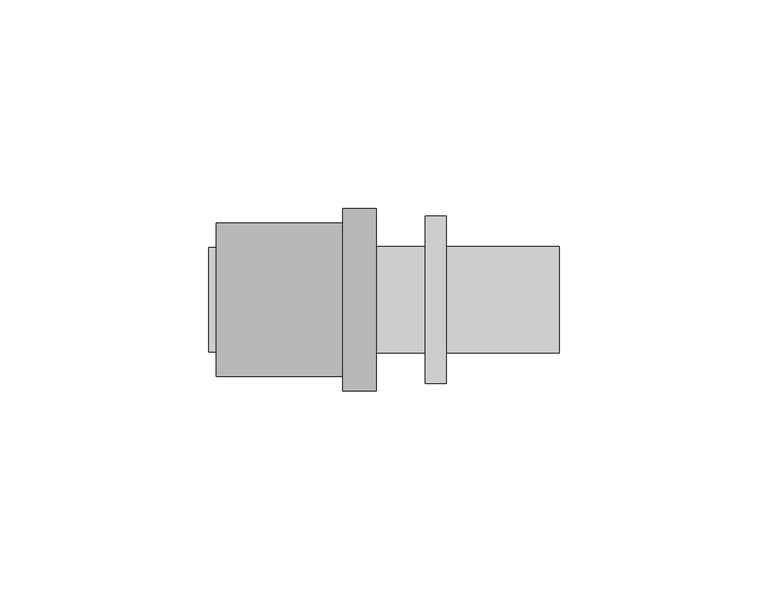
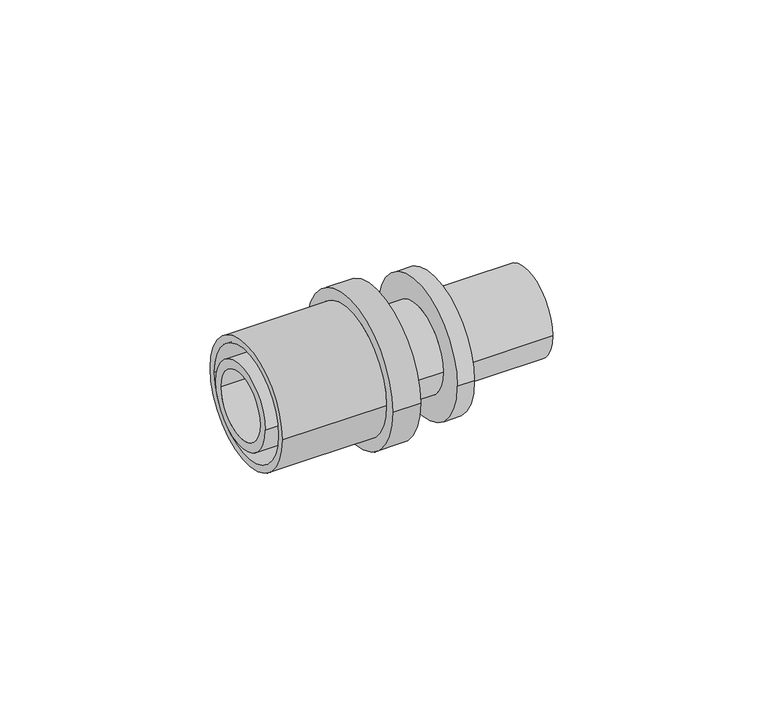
"""IFC4 building model written with IfcOpenShell, lengths in millimetres: pipe fitting geometry, FASTLOC_Adapter coupling EX+ : FSL TC EX+ AT."""

from ifc_helpers import new_model, si_unit, frame, origin, place, context, project, spatial, polyline, circle_curve, source, transform, mapped, element, save
from ifc_brep_helpers import plane_surface, cylinder_surface, revolved_surface, advanced_brep


def pipe_fitting_4892b1d5(model_context):
    return source(origin(), model_context, "Body", "AdvancedBrep", [
        advanced_brep(
        [(-5.5, -21.8, 0.0), (-5.5, 21.8, 0.0), (2.5, 21.8, 0.0), (2.5, -21.8, 0.0), (-35.8, -18.35, 0.0), (-35.8, 18.35, 0.0), (-5.5, 18.35, 0.0), (-5.5, -18.35, 0.0), (2.5, -16.2, 0.0), (2.5, 16.2, 0.0), (-35.8, 16.2, 0.0), (-35.8, -16.2, 0.0)],
        [
            (0, 1, circle_curve(frame((-5.5, 0.0, 0.0), z_axis=(1.0, 0.0, 0.0), x_axis=(0.0, 1.0, 0.0)), 21.8)),
            (1, 2),
            (2, 3, circle_curve(frame((2.5, 0.0, 0.0), z_axis=(-1.0, 0.0, 0.0), x_axis=(0.0, 1.0, 0.0)), 21.8)),
            (3, 0),
            (4, 5, circle_curve(frame((-35.8, 0.0, 0.0), z_axis=(1.0, 0.0, 0.0), x_axis=(0.0, 1.0, 0.0)), 18.35)),
            (5, 6),
            (6, 7, circle_curve(frame((-5.5, 0.0, 0.0), z_axis=(-1.0, 0.0, 0.0), x_axis=(0.0, 1.0, 0.0)), 18.35)),
            (7, 4),
            (8, 9, circle_curve(frame((2.5, 0.0, 0.0), z_axis=(1.0, 0.0, 0.0), x_axis=(0.0, 1.0, 0.0)), 16.2)),
            (9, 10),
            (10, 11, circle_curve(frame((-35.8, 0.0, 0.0), z_axis=(-1.0, 0.0, 0.0), x_axis=(0.0, 1.0, 0.0)), 16.2)),
            (11, 8),
            (1, 0, circle_curve(frame((-5.5, 0.0, 0.0), z_axis=(1.0, 0.0, 0.0), x_axis=(0.0, -1.0, 0.0)), 21.8)),
            (3, 2, circle_curve(frame((2.5, 0.0, 0.0), z_axis=(-1.0, 0.0, 0.0), x_axis=(0.0, -1.0, 0.0)), 21.8)),
            (6, 7, circle_curve(frame((-5.5, 0.0, 0.0), z_axis=(1.0, 0.0, 0.0), x_axis=(0.0, -1.0, 0.0)), 18.35)),
            (5, 4, circle_curve(frame((-35.8, 0.0, 0.0), z_axis=(1.0, 0.0, 0.0), x_axis=(0.0, -1.0, 0.0)), 18.35)),
            (10, 11, circle_curve(frame((-35.8, 0.0, 0.0), z_axis=(1.0, 0.0, 0.0), x_axis=(0.0, -1.0, 0.0)), 16.2)),
            (9, 8, circle_curve(frame((2.5, 0.0, 0.0), z_axis=(1.0, 0.0, 0.0), x_axis=(0.0, -1.0, 0.0)), 16.2)),
        ],
        [
            cylinder_surface(frame((2.5, 0.0, 0.0), z_axis=(-1.0, 0.0, 0.0), x_axis=(0.0, 1.0, 0.0)), 21.8),
            cylinder_surface(frame((2.5, 0.0, 0.0), z_axis=(-1.0, 0.0, 0.0), x_axis=(0.0, 1.0, 0.0)), 18.35),
            revolved_surface(polyline([(-35.8, 16.2, 0.0), (2.5, 16.2, 0.0)]), (2.5, 0.0, 0.0), (-1.0, 0.0, 0.0)),
            cylinder_surface(frame((2.5, 0.0, 0.0), z_axis=(-1.0, 0.0, 0.0), x_axis=(0.0, -1.0, 0.0)), 21.8),
            plane_surface(frame((-5.5, 0.0, 0.0), z_axis=(-1.0, 0.0, 0.0), x_axis=(0.0, -1.0, 0.0))),
            cylinder_surface(frame((2.5, 0.0, 0.0), z_axis=(-1.0, 0.0, 0.0), x_axis=(0.0, -1.0, 0.0)), 18.35),
            plane_surface(frame((-35.8, 0.0, 0.0), z_axis=(-1.0, 0.0, 0.0), x_axis=(0.0, -1.0, 0.0))),
            revolved_surface(polyline([(-35.8, -16.2, 0.0), (2.5, -16.2, 0.0)]), (2.5, 0.0, 0.0), (-1.0, 0.0, 0.0)),
            plane_surface(frame((2.5, 0.0, 0.0), z_axis=(1.0, 0.0, 0.0), x_axis=(0.0, -1.0, 0.0))),
        ],
        [
            (0, [[1, 2, 3, 4]]),
            (1, [[5, 6, 7, 8]]),
            (2, [[9, 10, 11, 12]]),
            (3, [[13, -4, 14, -2]]),
            (4, [[-13, -1], [15, -7]]),
            (5, [[16, -8, -15, -6]]),
            (6, [[-16, -5], [17, -11]]),
            (7, [[18, -12, -17, -10]]),
            (8, [[-14, -3], [-18, -9]]),
        ],
    ),
        advanced_brep(
        [(0.0, 9.85, 0.0), (0.0, -9.85, 0.0), (46.3, -9.85, 0.0), (46.3, 9.85, 0.0), (14.3, 12.75, 0.0), (14.3, -12.75, 0.0), (0.0, -12.75, 0.0), (0.0, 12.75, 0.0), (19.3, 20.0, 0.0), (19.3, -20.0, 0.0), (14.3, -20.0, 0.0), (14.3, 20.0, 0.0), (46.3, 12.75, 0.0), (46.3, -12.75, 0.0), (19.3, -12.75, 0.0), (19.3, 12.75, 0.0)],
        [
            (0, 1, circle_curve(frame((0.0, 0.0, 0.0), z_axis=(-1.0, 0.0, 0.0), x_axis=(0.0, -1.0, 0.0)), 9.85)),
            (1, 2),
            (2, 3, circle_curve(frame((46.3, 0.0, 0.0), z_axis=(1.0, 0.0, 0.0), x_axis=(0.0, -1.0, 0.0)), 9.85)),
            (3, 0),
            (4, 5, circle_curve(frame((14.3, 0.0, 0.0), z_axis=(-1.0, 0.0, 0.0), x_axis=(0.0, -1.0, 0.0)), 12.75)),
            (5, 6),
            (6, 7, circle_curve(frame((0.0, 0.0, 0.0), z_axis=(1.0, 0.0, 0.0), x_axis=(0.0, -1.0, 0.0)), 12.75)),
            (7, 4),
            (8, 9, circle_curve(frame((19.3, 0.0, 0.0), z_axis=(-1.0, 0.0, 0.0), x_axis=(0.0, -1.0, 0.0)), 20.0)),
            (9, 10),
            (10, 11, circle_curve(frame((14.3, 0.0, 0.0), z_axis=(1.0, 0.0, 0.0), x_axis=(0.0, -1.0, 0.0)), 20.0)),
            (11, 8),
            (12, 13, circle_curve(frame((46.3, 0.0, 0.0), z_axis=(-1.0, 0.0, 0.0), x_axis=(0.0, -1.0, 0.0)), 12.75)),
            (13, 14),
            (14, 15, circle_curve(frame((19.3, 0.0, 0.0), z_axis=(1.0, 0.0, 0.0), x_axis=(0.0, -1.0, 0.0)), 12.75)),
            (15, 12),
            (1, 0, circle_curve(frame((0.0, 0.0, 0.0), z_axis=(-1.0, 0.0, 0.0), x_axis=(0.0, 1.0, 0.0)), 9.85)),
            (3, 2, circle_curve(frame((46.3, 0.0, 0.0), z_axis=(1.0, 0.0, 0.0), x_axis=(0.0, 1.0, 0.0)), 9.85)),
            (6, 7, circle_curve(frame((0.0, 0.0, 0.0), z_axis=(-1.0, 0.0, 0.0), x_axis=(0.0, 1.0, 0.0)), 12.75)),
            (5, 4, circle_curve(frame((14.3, 0.0, 0.0), z_axis=(-1.0, 0.0, 0.0), x_axis=(0.0, 1.0, 0.0)), 12.75)),
            (10, 11, circle_curve(frame((14.3, 0.0, 0.0), z_axis=(-1.0, 0.0, 0.0), x_axis=(0.0, 1.0, 0.0)), 20.0)),
            (9, 8, circle_curve(frame((19.3, 0.0, 0.0), z_axis=(-1.0, 0.0, 0.0), x_axis=(0.0, 1.0, 0.0)), 20.0)),
            (14, 15, circle_curve(frame((19.3, 0.0, 0.0), z_axis=(-1.0, 0.0, 0.0), x_axis=(0.0, 1.0, 0.0)), 12.75)),
            (13, 12, circle_curve(frame((46.3, 0.0, 0.0), z_axis=(-1.0, 0.0, 0.0), x_axis=(0.0, 1.0, 0.0)), 12.75)),
        ],
        [
            revolved_surface(polyline([(46.3, -9.85, 0.0), (0.0, -9.85, 0.0)]), (0.0, 0.0, 0.0), (1.0, 0.0, 0.0)),
            cylinder_surface(frame((0.0, 0.0, 0.0), z_axis=(1.0, 0.0, 0.0), x_axis=(0.0, -1.0, 0.0)), 12.75),
            cylinder_surface(frame((0.0, 0.0, 0.0), z_axis=(1.0, 0.0, 0.0), x_axis=(0.0, -1.0, 0.0)), 20.0),
            revolved_surface(polyline([(46.3, 9.85, 0.0), (0.0, 9.85, 0.0)]), (0.0, 0.0, 0.0), (1.0, 0.0, 0.0)),
            plane_surface(frame((0.0, 0.0, 0.0), z_axis=(-1.0, 0.0, 0.0), x_axis=(0.0, 1.0, 0.0))),
            cylinder_surface(frame((0.0, 0.0, 0.0), z_axis=(1.0, 0.0, 0.0), x_axis=(0.0, 1.0, 0.0)), 12.75),
            plane_surface(frame((14.3, 0.0, 0.0), z_axis=(-1.0, 0.0, 0.0), x_axis=(0.0, 1.0, 0.0))),
            cylinder_surface(frame((0.0, 0.0, 0.0), z_axis=(1.0, 0.0, 0.0), x_axis=(0.0, 1.0, 0.0)), 20.0),
            plane_surface(frame((19.3, 0.0, 0.0), z_axis=(1.0, 0.0, 0.0), x_axis=(0.0, 1.0, 0.0))),
            plane_surface(frame((46.3, 0.0, 0.0), z_axis=(1.0, 0.0, 0.0), x_axis=(0.0, 1.0, 0.0))),
        ],
        [
            (0, [[1, 2, 3, 4]]),
            (1, [[5, 6, 7, 8]]),
            (2, [[9, 10, 11, 12]]),
            (1, [[13, 14, 15, 16]]),
            (3, [[17, -4, 18, -2]]),
            (4, [[19, -7], [-17, -1]]),
            (5, [[20, -8, -19, -6]]),
            (6, [[21, -11], [-20, -5]]),
            (7, [[22, -12, -21, -10]]),
            (8, [[-22, -9], [23, -15]]),
            (5, [[24, -16, -23, -14]]),
            (9, [[-24, -13], [-18, -3]]),
        ],
    ),
        advanced_brep(
        [(-5.5, 12.5, 0.0), (-5.5, -12.5, 0.0), (-37.5, -12.5, 0.0), (-37.5, 12.5, 0.0), (-2.5, 14.1, 0.0), (-2.5, -14.1, 0.0), (-5.5, -14.1, 0.0), (-5.5, 14.1, 0.0), (0.0, 12.5, 0.0), (0.0, -12.5, 0.0), (-2.5, -12.5, 0.0), (-2.5, 12.5, 0.0), (-37.5, 9.85, 0.0), (-37.5, -9.85, 0.0), (0.0, -9.85, 0.0), (0.0, 9.85, 0.0)],
        [
            (0, 1, circle_curve(frame((-5.5, 0.0, 0.0), z_axis=(-1.0, 0.0, 0.0), x_axis=(0.0, -1.0, 0.0)), 12.5)),
            (1, 2),
            (2, 3, circle_curve(frame((-37.5, 0.0, 0.0), z_axis=(1.0, 0.0, 0.0), x_axis=(0.0, -1.0, 0.0)), 12.5)),
            (3, 0),
            (4, 5, circle_curve(frame((-2.5, 0.0, 0.0), z_axis=(-1.0, 0.0, 0.0), x_axis=(0.0, -1.0, 0.0)), 14.1)),
            (5, 6),
            (6, 7, circle_curve(frame((-5.5, 0.0, 0.0), z_axis=(1.0, 0.0, 0.0), x_axis=(0.0, -1.0, 0.0)), 14.1)),
            (7, 4),
            (8, 9, circle_curve(frame((0.0, 0.0, 0.0), z_axis=(-1.0, 0.0, 0.0), x_axis=(0.0, -1.0, 0.0)), 12.5)),
            (9, 10),
            (10, 11, circle_curve(frame((-2.5, 0.0, 0.0), z_axis=(1.0, 0.0, 0.0), x_axis=(0.0, -1.0, 0.0)), 12.5)),
            (11, 8),
            (12, 13, circle_curve(frame((-37.5, 0.0, 0.0), z_axis=(-1.0, 0.0, 0.0), x_axis=(0.0, -1.0, 0.0)), 9.85)),
            (13, 14),
            (14, 15, circle_curve(frame((0.0, 0.0, 0.0), z_axis=(1.0, 0.0, 0.0), x_axis=(0.0, -1.0, 0.0)), 9.85)),
            (15, 12),
            (2, 3, circle_curve(frame((-37.5, 0.0, 0.0), z_axis=(-1.0, 0.0, 0.0), x_axis=(0.0, 1.0, 0.0)), 12.5)),
            (12, 13, circle_curve(frame((-37.5, 0.0, 0.0), z_axis=(1.0, 0.0, 0.0), x_axis=(0.0, 1.0, 0.0)), 9.85)),
            (1, 0, circle_curve(frame((-5.5, 0.0, 0.0), z_axis=(-1.0, 0.0, 0.0), x_axis=(0.0, 1.0, 0.0)), 12.5)),
            (6, 7, circle_curve(frame((-5.5, 0.0, 0.0), z_axis=(-1.0, 0.0, 0.0), x_axis=(0.0, 1.0, 0.0)), 14.1)),
            (5, 4, circle_curve(frame((-2.5, 0.0, 0.0), z_axis=(-1.0, 0.0, 0.0), x_axis=(0.0, 1.0, 0.0)), 14.1)),
            (10, 11, circle_curve(frame((-2.5, 0.0, 0.0), z_axis=(-1.0, 0.0, 0.0), x_axis=(0.0, 1.0, 0.0)), 12.5)),
            (9, 8, circle_curve(frame((0.0, 0.0, 0.0), z_axis=(-1.0, 0.0, 0.0), x_axis=(0.0, 1.0, 0.0)), 12.5)),
            (14, 15, circle_curve(frame((0.0, 0.0, 0.0), z_axis=(-1.0, 0.0, 0.0), x_axis=(0.0, 1.0, 0.0)), 9.85)),
        ],
        [
            cylinder_surface(frame((0.0, 0.0, 0.0), z_axis=(1.0, 0.0, 0.0), x_axis=(0.0, -1.0, 0.0)), 12.5),
            cylinder_surface(frame((0.0, 0.0, 0.0), z_axis=(1.0, 0.0, 0.0), x_axis=(0.0, -1.0, 0.0)), 14.1),
            revolved_surface(polyline([(0.0, -9.85, 0.0), (-37.5, -9.85, 0.0)]), (0.0, 0.0, 0.0), (1.0, 0.0, 0.0)),
            plane_surface(frame((-37.5, 0.0, 0.0), z_axis=(-1.0, 0.0, 0.0), x_axis=(0.0, 1.0, 0.0))),
            cylinder_surface(frame((0.0, 0.0, 0.0), z_axis=(1.0, 0.0, 0.0), x_axis=(0.0, 1.0, 0.0)), 12.5),
            plane_surface(frame((-5.5, 0.0, 0.0), z_axis=(-1.0, 0.0, 0.0), x_axis=(0.0, 1.0, 0.0))),
            cylinder_surface(frame((0.0, 0.0, 0.0), z_axis=(1.0, 0.0, 0.0), x_axis=(0.0, 1.0, 0.0)), 14.1),
            plane_surface(frame((-2.5, 0.0, 0.0), z_axis=(1.0, 0.0, 0.0), x_axis=(0.0, 1.0, 0.0))),
            plane_surface(frame((0.0, 0.0, 0.0), z_axis=(1.0, 0.0, 0.0), x_axis=(0.0, 1.0, 0.0))),
            revolved_surface(polyline([(0.0, 9.85, 0.0), (-37.5, 9.85, 0.0)]), (0.0, 0.0, 0.0), (1.0, 0.0, 0.0)),
        ],
        [
            (0, [[1, 2, 3, 4]]),
            (1, [[5, 6, 7, 8]]),
            (0, [[9, 10, 11, 12]]),
            (2, [[13, 14, 15, 16]]),
            (3, [[17, -3], [18, -13]]),
            (4, [[19, -4, -17, -2]]),
            (5, [[20, -7], [-19, -1]]),
            (6, [[21, -8, -20, -6]]),
            (7, [[-21, -5], [22, -11]]),
            (4, [[23, -12, -22, -10]]),
            (8, [[-23, -9], [24, -15]]),
            (9, [[-18, -16, -24, -14]]),
        ],
    ),
    ])


if __name__ == "__main__":
    model = new_model("IFC4")
    model_context = context("Model", 3, world=origin())
    ifc_project = project(units=[si_unit("LENGTHUNIT", "METRE", prefix="MILLI")], contexts=[model_context])
    site = spatial("IfcSite", under=ifc_project)
    building = spatial("IfcBuilding", under=site)
    placement = place(None, origin())
    pipe_fitting_shape = pipe_fitting_4892b1d5(model_context)
    element("IfcPipeFitting", 1, ObjectType="FASTLOC_Adapter coupling EX+ : FSL TC EX+ AT", at=placement, inside=building, context=model_context, shape_type="MappedRepresentation", body=[
        mapped(pipe_fitting_shape, transform((0.0, 0.0, 0.0), x_axis=(1.0, 0.0, 0.0), y_axis=(0.0, 1.0, 0.0), z_axis=(0.0, 0.0, 1.0))),
    ])
    save(model, "model.ifc")
